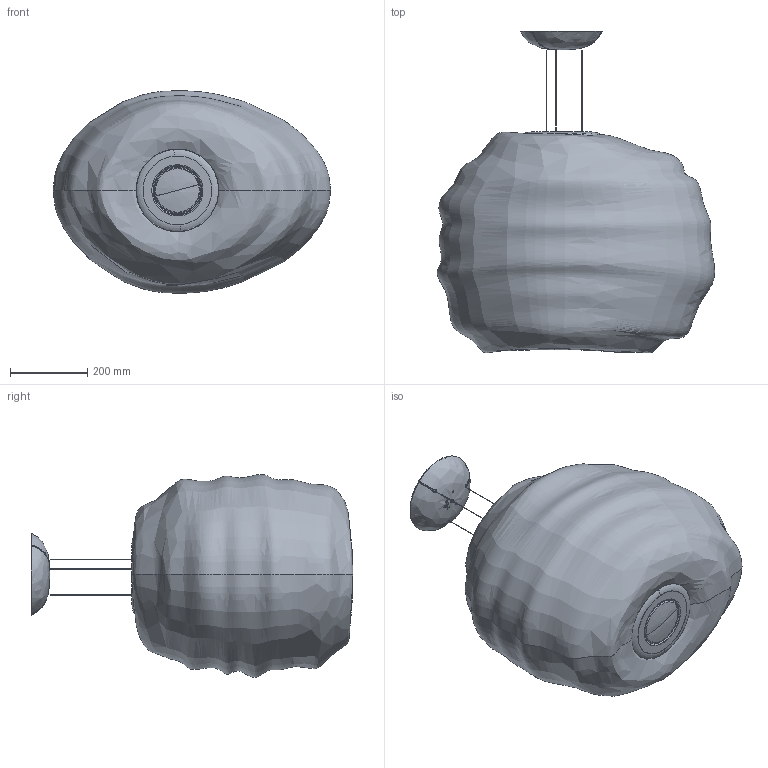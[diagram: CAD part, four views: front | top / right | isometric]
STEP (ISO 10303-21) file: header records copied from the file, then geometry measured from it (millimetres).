
FILE_DESCRIPTION (( 'STEP AP214' ), '1' );
FILE_NAME ('309_MEDIA_S_LD_3D.STEP', '2021-05-25T07:11:53', ( '' ), ( '' ), 'SwSTEP 2.0', 'SolidWorks 2021', '' );
FILE_SCHEMA (( 'AUTOMOTIVE_DESIGN' ));
Length unit declared in the file: millimetre
Products named in the file (1): 309_MEDIA_S_LD_3D
Bounding box: 716.97 x 832.01 x 524.52 mm (x, y, z)
Volume: 124134070.8 mm3; surface area: 1624708.4 mm2
Topology: 9 solids, 9 shells, 539 faces, 1310 edges, 826 vertices
Faces by surface type: cylinder 178, plane 173, bspline 80, cone 66, torus 42
Entity records: 36818 total; most frequent: CARTESIAN_POINT 18483, ORIENTED_EDGE 2612, DIRECTION 2442, EDGE_CURVE 1306, AXIS2_PLACEMENT_3D 986, VERTEX_POINT 826, EDGE_LOOP 640, UNCERTAINTY_MEASURE_WITH_UNIT 550
